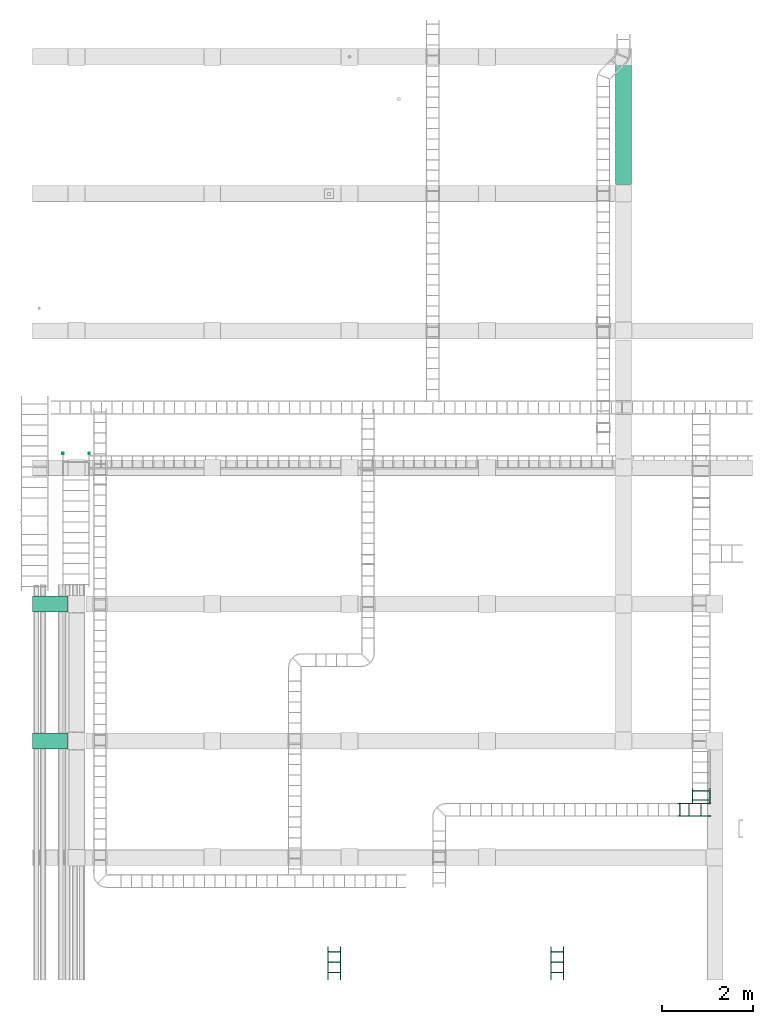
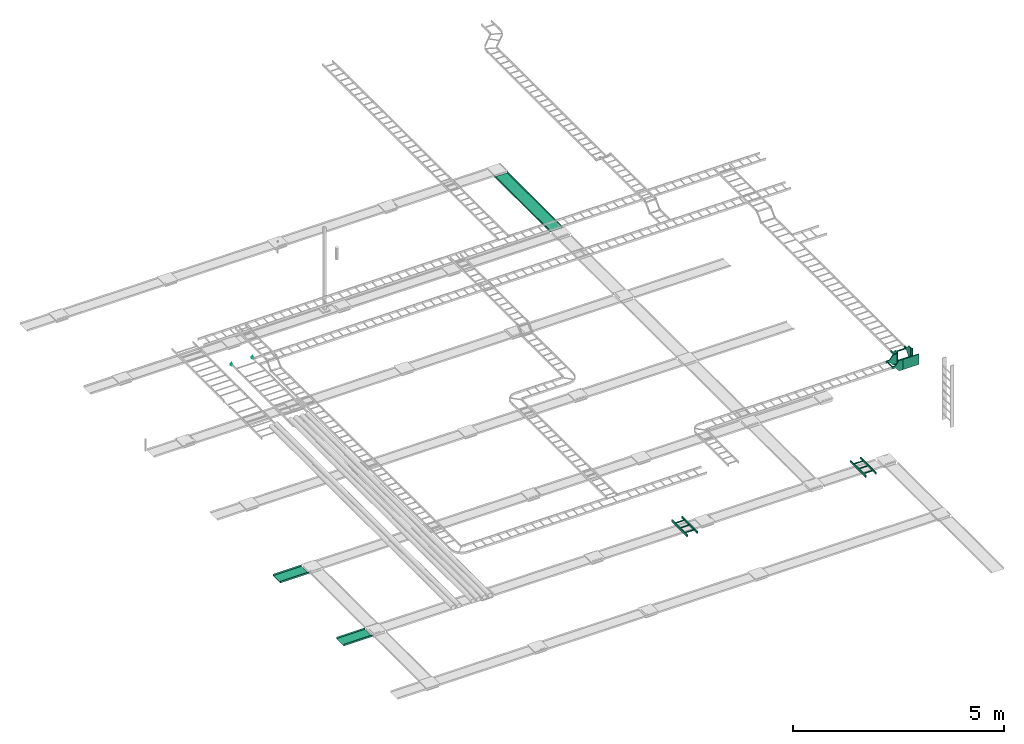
# One storey, part 14 of 16: 6 flow segments, 3 flow fittings.
"""IFC2X3 building model written with IfcOpenShell, lengths in millimetres."""

from ifc_helpers import new_model, entity, si_unit, converted_unit, derived_unit, direction, frame, origin_with_axes, place, context, subcontext, project, spatial, open_shell, faceted_brep, surface_model, source, transform, mapped, type_object, element, save


model = new_model("IFC2X3")

# Units and contexts
model_context = context("Model", 3, precision=0.01, world=frame((0.0, 4.29681676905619e-09, 0.0)), true_north=direction((4.01073788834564e-13, 1.0)))
plan_context = context("Plan", 3, precision=0.01, world=frame((0.0, 4.29681676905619e-09, 0.0)), true_north=direction((4.01073788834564e-13, 1.0)))
body_context = subcontext(model_context, "Body", "Model", "MODEL_VIEW")
ifc_project = project(units=[converted_unit("PLANEANGLEUNIT", "DEGREE", entity("IfcPositiveLengthMeasure", 0.0174532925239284), si_unit("PLANEANGLEUNIT", "RADIAN"), dimensions=[0, 0, 0, 0, 0, 0, 0]), si_unit("AREAUNIT", "SQUARE_METRE"), si_unit("LENGTHUNIT", "METRE", prefix="MILLI"), si_unit("MASSUNIT", "GRAM", prefix="KILO"), si_unit("POWERUNIT", "WATT"), si_unit("PRESSUREUNIT", "PASCAL"), si_unit("FORCEUNIT", "NEWTON", prefix="KILO"), si_unit("ELECTRICVOLTAGEUNIT", "VOLT"), si_unit("ELECTRICCURRENTUNIT", "AMPERE"), si_unit("THERMODYNAMICTEMPERATUREUNIT", "DEGREE_CELSIUS"), si_unit("TIMEUNIT", "SECOND"), si_unit("VOLUMEUNIT", "CUBIC_METRE"), derived_unit("LINEARVELOCITYUNIT", [(si_unit("LENGTHUNIT", "METRE"), 1), (si_unit("TIMEUNIT", "SECOND"), -1)]), derived_unit("VOLUMETRICFLOWRATEUNIT", [(si_unit("VOLUMEUNIT", "CUBIC_METRE"), 1), (si_unit("TIMEUNIT", "SECOND"), -1)]), derived_unit("THERMALTRANSMITTANCEUNIT", [(si_unit("POWERUNIT", "WATT"), 1), (si_unit("THERMODYNAMICTEMPERATUREUNIT", "KELVIN"), -1), (si_unit("AREAUNIT", "SQUARE_METRE"), -1)]), derived_unit("SOUNDPRESSUREUNIT", [(si_unit("PRESSUREUNIT", "PASCAL"), 1)])], contexts=[model_context, plan_context])

# Site, building, storey
site_placement = place(None, frame((0.0, -4.29681676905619e-09, 0.0), z_axis=(0.0, 0.0, 1.0), x_axis=(1.0, 0.0, 0.0)))
site = spatial("IfcSite", under=ifc_project, at=site_placement, Name="ENGM", CompositionType="ELEMENT")
building_placement = place(site_placement, frame((0.0, 4.29681676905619e-09, 0.0), z_axis=(0.0, 0.0, 1.0), x_axis=(1.0, 0.0, 0.0)))
building = spatial("IfcBuilding", under=site, at=building_placement, Name="TS", CompositionType="ELEMENT")
storey_placement = place(building_placement, frame((0.0, 0.0, 210900.0), z_axis=(0.0, 0.0, 1.0), x_axis=(1.0, 0.0, 0.0)))
storey = spatial("IfcBuildingStorey", under=building, at=storey_placement, Name="Nivå F", CompositionType="ELEMENT", Elevation=210900.0)

# Flow fittings
cable_carrier_fitting_type_1 = type_object("IfcCableCarrierFittingType", Name="10mm Radius", PredefinedType="TEE")
shared_shape_1 = source(origin_with_axes(), body_context, "Body", "SurfaceModel", [
    surface_model("IfcShellBasedSurfaceModel", [(12.7, -124.6, -124.6), (12.7, 124.6, -124.6), (-12.7, 124.6, -124.6), (-12.7, -124.6, -124.6), (-12.7, -124.6, -150.0), (-12.7, 124.6, -150.0), (12.7, 124.6, -150.0), (12.7, -124.6, -150.0), (-210.0, -124.6, 150.0), (-220.0, -124.6, 150.0), (-210.0, -150.0, 150.0), (-220.0, -150.0, 150.0), (-207.41181, -150.34074, 150.0), (-205.0, -151.33974, 150.0), (-192.3, -129.3427, 150.0), (-200.83781, -125.80623, 150.0), (-179.34271, -142.3, 150.0), (-184.96842, -134.96842, 150.0), (-201.33975, -155.0, 150.0), (-202.92893, -152.92893, 150.0), (-200.34073, -157.41181, 150.0), (-175.80622, -150.8378, 150.0), (-174.60001, -160.0, 150.0), (-200.0, -160.0, 150.0), (-200.0, -170.0, 150.0), (-174.60001, -170.0, 150.0), (205.0, -151.33974, 150.0), (207.41181, -150.34074, 150.0), (200.83781, -125.80623, 150.0), (192.3, -129.3427, 150.0), (184.96842, -134.96842, 150.0), (202.92893, -152.92893, 150.0), (220.0, -124.6, 150.0), (210.0, -124.6, 150.0), (210.0, -150.0, 150.0), (220.0, -150.0, 150.0), (179.34271, -142.3, 150.0), (201.33975, -155.0, 150.0), (200.34073, -157.41181, 150.0), (175.80622, -150.8378, 150.0), (174.60001, -160.0, 150.0), (200.0, -160.0, 150.0), (174.60001, -170.0, 150.0), (200.0, -170.0, 150.0), (220.0, 150.0, 150.0), (-220.0, 150.0, 150.0), (-220.0, 124.6, 150.0), (220.0, 124.6, 150.0), (-200.0, -170.0, -150.0), (-200.0, -160.0, -150.0), (-174.60001, -170.0, -150.0), (-174.60001, -160.0, -150.0), (-174.96527, -154.92777, -150.0), (-200.34073, -157.41181, -150.0), (-176.0418, -150.0, -150.0), (-201.33975, -155.0, -150.0), (200.0, -170.0, -150.0), (174.60001, -170.0, -150.0), (200.0, -160.0, -150.0), (174.60001, -160.0, -150.0), (174.96527, -154.92777, -150.0), (200.34073, -157.41181, -150.0), (176.0418, -150.0, -150.0), (201.33975, -155.0, -150.0), (-205.0, -151.33974, -150.0), (-207.41181, -150.34074, -150.0), (-220.0, -124.6, -150.0), (-202.92893, -152.92893, -150.0), (-220.0, -150.0, -150.0), (-210.0, -150.0, -150.0), (220.0, -124.6, -150.0), (205.0, -151.33974, -150.0), (202.92893, -152.92893, -150.0), (207.41181, -150.34074, -150.0), (210.0, -150.0, -150.0), (220.0, -150.0, -150.0), (220.0, 124.6, -150.0), (-220.0, 124.6, -150.0), (-220.0, 150.0, -150.0), (220.0, 150.0, -150.0), (-176.0418, -150.0, -124.6), (-179.69674, -141.70049, -124.6), (-185.34038, -134.60191, -124.6), (-192.60234, -129.17012, -124.6), (-201.00604, -125.76159, -124.6), (-210.0, -124.6, -124.6), (210.0, -124.6, -124.6), (-210.0, -150.0, -124.6), (210.0, -150.0, -124.6), (201.00604, -125.76159, -124.6), (192.60234, -129.17012, -124.6), (185.34038, -134.60191, -124.6), (179.69674, -141.70049, -124.6), (176.0418, -150.0, -124.6)], [open_shell([[[0, 1, 2]], [[2, 3, 0]], [[4, 5, 6]], [[6, 7, 4]], [[2, 1, 6]], [[6, 5, 2]], [[3, 2, 5]], [[5, 4, 3]], [[0, 3, 4]], [[4, 7, 0]], [[1, 0, 7]], [[7, 6, 1]], [[8, 9, 10]], [[11, 10, 9]], [[8, 10, 12]], [[13, 14, 15]], [[16, 17, 18]], [[14, 19, 17]], [[15, 12, 13]], [[15, 8, 12]], [[18, 17, 19]], [[18, 20, 21]], [[18, 21, 16]], [[21, 20, 22]], [[23, 24, 25]], [[23, 25, 22]], [[20, 23, 22]], [[19, 14, 13]], [[26, 27, 28]], [[26, 28, 29]], [[29, 30, 31]], [[32, 33, 34]], [[27, 34, 33]], [[34, 35, 32]], [[33, 28, 27]], [[30, 36, 37]], [[38, 39, 40]], [[41, 42, 43]], [[42, 41, 40]], [[38, 40, 41]], [[26, 29, 31]], [[38, 37, 39]], [[30, 37, 31]], [[36, 39, 37]], [[44, 45, 46]], [[46, 47, 44]], [[48, 49, 50]], [[50, 49, 51]], [[52, 53, 54]], [[51, 49, 52]], [[53, 55, 54]], [[52, 49, 53]], [[56, 57, 58]], [[58, 57, 59]], [[60, 61, 58]], [[62, 63, 61]], [[61, 60, 62]], [[60, 58, 59]], [[64, 65, 66]], [[67, 64, 54]], [[68, 66, 69]], [[66, 65, 69]], [[64, 66, 54]], [[66, 70, 54]], [[71, 72, 62]], [[73, 71, 70]], [[73, 70, 74]], [[70, 71, 62]], [[70, 75, 74]], [[62, 54, 70]], [[63, 62, 72]], [[55, 67, 54]], [[76, 77, 78]], [[78, 79, 76]], [[24, 23, 49]], [[49, 48, 24]], [[25, 24, 48]], [[48, 50, 25]], [[22, 25, 50]], [[50, 51, 22]], [[22, 51, 52]], [[52, 54, 80]], [[22, 52, 21]], [[80, 16, 21]], [[16, 80, 81]], [[52, 80, 21]], [[81, 17, 16]], [[14, 82, 83]], [[15, 83, 84]], [[8, 84, 85]], [[17, 82, 14]], [[14, 83, 15]], [[84, 8, 15]], [[82, 17, 81]], [[33, 32, 86]], [[9, 8, 85]], [[86, 70, 85]], [[70, 86, 32]], [[85, 66, 9]], [[66, 85, 70]], [[11, 9, 66]], [[66, 68, 11]], [[10, 11, 87]], [[87, 68, 69]], [[68, 87, 11]], [[12, 10, 87]], [[13, 12, 87]], [[65, 87, 69]], [[87, 65, 64]], [[64, 13, 87]], [[64, 67, 13]], [[18, 19, 55]], [[20, 18, 53]], [[23, 20, 49]], [[55, 19, 67]], [[53, 18, 55]], [[53, 49, 20]], [[13, 67, 19]], [[37, 38, 61]], [[31, 37, 63]], [[58, 38, 41]], [[61, 38, 58]], [[61, 63, 37]], [[63, 72, 31]], [[88, 27, 26]], [[27, 88, 34]], [[71, 88, 26]], [[71, 26, 72]], [[73, 88, 71]], [[73, 74, 88]], [[31, 72, 26]], [[35, 34, 88]], [[88, 74, 75]], [[88, 75, 35]], [[32, 35, 75]], [[75, 70, 32]], [[33, 86, 89]], [[28, 89, 90]], [[29, 90, 91]], [[33, 89, 28]], [[28, 90, 29]], [[91, 30, 29]], [[91, 92, 30]], [[93, 62, 60]], [[93, 60, 39]], [[40, 60, 59]], [[92, 36, 30]], [[92, 93, 36]], [[36, 93, 39]], [[60, 40, 39]], [[42, 40, 57]], [[59, 57, 40]], [[43, 42, 57]], [[57, 56, 43]], [[41, 43, 58]], [[56, 58, 43]], [[45, 44, 79]], [[79, 78, 45]], [[46, 45, 77]], [[78, 77, 45]], [[47, 46, 77]], [[77, 76, 47]], [[44, 47, 79]], [[76, 79, 47]], [[89, 86, 84]], [[90, 89, 84]], [[92, 91, 82]], [[93, 92, 81]], [[90, 83, 91]], [[84, 83, 90]], [[85, 84, 86]], [[81, 80, 93]], [[82, 81, 92]], [[83, 82, 91]], [[93, 80, 54]], [[54, 62, 93]]])]),
])
flow_fitting_1_placement = place(storey_placement, frame((535192.55901, 444501.94453, 3925.0), z_axis=(0.0, 0.0, 1.0), x_axis=(-1.0, 0.0, 0.0)))
element("IfcFlowFitting", 1, at=flow_fitting_1_placement, inside=storey, type_object=cable_carrier_fitting_type_1, Name="10mm Radius", context=body_context, shape_type="MappedRepresentation", body=[
    mapped(shared_shape_1, transform((0.0, 0.0, 0.0), scale=1.0)),
])
cable_carrier_fitting_type_2 = type_object("IfcCableCarrierFittingType", Name="Standard", PredefinedType="REDUCER")
shared_shape_2 = source(origin_with_axes(), body_context, "Body", "SurfaceModel", [
    surface_model("IfcShellBasedSurfaceModel", [(300.0, -150.0, -30.0), (300.0, -124.6, -30.0), (300.0, -124.6, 30.0), (300.0, -150.0, 30.0), (300.0, 124.6, -30.0), (300.0, 150.0, -30.0), (300.0, 150.0, 30.0), (300.0, 124.6, 30.0), (237.3, 124.6, -4.6), (262.70001, 124.6, -30.0), (237.3, 124.6, -30.0), (262.70001, 124.6, -4.6), (237.3, -124.6, -30.0), (262.70001, -124.6, -30.0), (237.3, -124.6, -4.6), (262.70001, -124.6, -4.6), (200.0, -124.6, 30.0), (200.0, -124.6, -30.0), (200.0, -150.0, -30.0), (200.0, -150.0, 30.0), (200.0, 150.0, 30.0), (200.0, 150.0, -30.0), (200.0, 124.6, -30.0), (200.0, 124.6, 30.0), (0.0, -124.6, 150.0), (0.0, -124.6, -150.0), (0.0, -150.0, -150.0), (0.0, -150.0, 150.0), (0.0, 150.0, 150.0), (0.0, 150.0, -150.0), (0.0, 124.6, -150.0), (0.0, 124.6, 150.0), (100.0, -124.6, -150.0), (100.0, -124.6, 150.0), (100.0, -150.0, -150.0), (100.0, -150.0, 150.0), (100.0, 150.0, -150.0), (100.0, 150.0, 150.0), (100.0, 124.6, -150.0), (100.0, 124.6, 150.0), (37.3, 124.6, -124.6), (62.7, 124.6, -150.0), (37.3, 124.6, -150.0), (62.7, 124.6, -124.6), (37.3, -124.6, -150.0), (62.7, -124.6, -150.0), (37.3, -124.6, -124.6), (62.7, -124.6, -124.6)], [open_shell([[[0, 1, 2]], [[2, 3, 0]], [[4, 5, 6]], [[6, 7, 4]], [[8, 9, 10]], [[9, 8, 11]], [[12, 13, 14]], [[15, 14, 13]], [[9, 11, 15]], [[15, 13, 9]], [[8, 10, 12]], [[12, 14, 8]], [[16, 2, 17]], [[1, 17, 2]], [[18, 0, 19]], [[3, 19, 0]], [[20, 6, 21]], [[5, 21, 6]], [[22, 4, 23]], [[7, 23, 4]], [[18, 17, 1]], [[1, 0, 18]], [[16, 19, 2]], [[3, 2, 19]], [[22, 21, 5]], [[5, 4, 22]], [[20, 23, 6]], [[7, 6, 23]], [[10, 9, 12]], [[13, 12, 9]], [[11, 8, 15]], [[14, 15, 8]], [[24, 25, 26]], [[26, 27, 24]], [[28, 29, 30]], [[30, 31, 28]], [[25, 24, 16]], [[17, 32, 25]], [[16, 24, 33]], [[16, 17, 25]], [[26, 25, 32]], [[32, 34, 26]], [[27, 26, 18]], [[19, 35, 27]], [[18, 26, 34]], [[18, 19, 27]], [[24, 27, 33]], [[35, 33, 27]], [[29, 28, 20]], [[21, 36, 29]], [[20, 28, 37]], [[20, 21, 29]], [[30, 29, 36]], [[36, 38, 30]], [[31, 30, 22]], [[23, 39, 31]], [[22, 30, 38]], [[22, 23, 31]], [[28, 31, 37]], [[39, 37, 31]], [[20, 37, 23]], [[39, 23, 37]], [[22, 38, 36]], [[36, 21, 22]], [[16, 33, 19]], [[35, 19, 33]], [[18, 34, 32]], [[32, 17, 18]], [[40, 41, 42]], [[41, 40, 43]], [[44, 45, 46]], [[47, 46, 45]], [[41, 43, 47]], [[47, 45, 41]], [[42, 41, 44]], [[45, 44, 41]], [[40, 42, 44]], [[44, 46, 40]], [[43, 40, 47]], [[46, 47, 40]]])]),
])
flow_fitting_2_placement = place(storey_placement, frame((534972.55901, 444501.94453, 3925.0), z_axis=(0.0, 0.0, 1.0), x_axis=(-1.0, 0.0, 0.0)))
element("IfcFlowFitting", 2, at=flow_fitting_2_placement, inside=storey, type_object=cable_carrier_fitting_type_2, Name="Standard", context=body_context, shape_type="MappedRepresentation", body=[
    mapped(shared_shape_2, transform((0.0, 0.0, 0.0), scale=1.0)),
])
shared_shape_3 = source(origin_with_axes(), body_context, "Body", "SurfaceModel", [
    surface_model("IfcShellBasedSurfaceModel", [(0.0, -200.0, 150.0), (0.0, -174.60001, -150.0), (0.0, -200.0, -150.0), (0.0, -174.60001, 150.0), (0.0, 174.60001, 150.0), (0.0, 200.0, -150.0), (0.0, 174.60001, -150.0), (0.0, 200.0, 150.0), (200.0, -174.60001, 30.0), (200.0, -174.60001, -30.0), (100.0, -174.60001, -150.0), (100.0, -174.60001, 150.0), (300.0, -174.60001, 30.0), (300.0, -174.60001, -30.0), (100.0, -200.0, -150.0), (200.0, -200.0, -30.0), (200.0, -200.0, 30.0), (100.0, -200.0, 150.0), (300.0, -200.0, -30.0), (300.0, -200.0, 30.0), (200.0, 200.0, 30.0), (200.0, 200.0, -30.0), (100.0, 200.0, -150.0), (100.0, 200.0, 150.0), (300.0, 200.0, 30.0), (300.0, 200.0, -30.0), (100.0, 174.60001, -150.0), (200.0, 174.60001, -30.0), (200.0, 174.60001, 30.0), (100.0, 174.60001, 150.0), (300.0, 174.60001, -30.0), (300.0, 174.60001, 30.0), (237.3, 174.60001, -4.6), (262.70001, 174.60001, -30.0), (237.3, 174.60001, -30.0), (262.70001, 174.60001, -4.6), (237.3, -174.60001, -30.0), (262.70001, -174.60001, -30.0), (237.3, -174.60001, -4.6), (262.70001, -174.60001, -4.6), (37.3, 174.60001, -124.6), (62.7, 174.60001, -150.0), (37.3, 174.60001, -150.0), (62.7, 174.60001, -124.6), (37.3, -174.60001, -150.0), (62.7, -174.60001, -150.0), (37.3, -174.60001, -124.6), (62.7, -174.60001, -124.6)], [open_shell([[[0, 1, 2]], [[1, 0, 3]], [[4, 5, 6]], [[5, 4, 7]], [[1, 3, 8]], [[9, 10, 1]], [[8, 3, 11]], [[8, 12, 9]], [[13, 9, 12]], [[8, 9, 1]], [[2, 1, 10]], [[10, 14, 2]], [[0, 2, 15]], [[16, 17, 0]], [[15, 2, 14]], [[15, 18, 16]], [[19, 16, 18]], [[15, 16, 0]], [[3, 0, 11]], [[17, 11, 0]], [[5, 7, 20]], [[21, 22, 5]], [[20, 7, 23]], [[20, 24, 21]], [[25, 21, 24]], [[20, 21, 5]], [[6, 5, 22]], [[22, 26, 6]], [[4, 6, 27]], [[28, 29, 4]], [[27, 6, 26]], [[27, 30, 28]], [[31, 28, 30]], [[27, 28, 4]], [[7, 4, 23]], [[29, 23, 4]], [[18, 13, 19]], [[12, 19, 13]], [[30, 25, 31]], [[24, 31, 25]], [[20, 23, 28]], [[29, 28, 23]], [[27, 26, 22]], [[22, 21, 27]], [[15, 9, 13]], [[13, 18, 15]], [[8, 16, 12]], [[19, 12, 16]], [[27, 21, 25]], [[25, 30, 27]], [[20, 28, 24]], [[31, 24, 28]], [[8, 11, 16]], [[17, 16, 11]], [[15, 14, 10]], [[10, 9, 15]], [[32, 33, 34]], [[33, 32, 35]], [[36, 37, 38]], [[39, 38, 37]], [[33, 35, 37]], [[39, 37, 35]], [[34, 33, 37]], [[37, 36, 34]], [[32, 34, 38]], [[36, 38, 34]], [[35, 32, 38]], [[38, 39, 35]], [[40, 41, 42]], [[41, 40, 43]], [[44, 45, 46]], [[47, 46, 45]], [[41, 43, 47]], [[47, 45, 41]], [[42, 41, 44]], [[45, 44, 41]], [[40, 42, 44]], [[44, 46, 40]], [[43, 40, 47]], [[46, 47, 40]]])]),
])
flow_fitting_3_placement = place(storey_placement, frame((535192.55901, 444671.94453, 3925.0), z_axis=(0.0, 0.0, 1.0), x_axis=(0.0, 1.0, 0.0)))
element("IfcFlowFitting", 3, at=flow_fitting_3_placement, inside=storey, type_object=cable_carrier_fitting_type_2, Name="Standard", context=body_context, shape_type="MappedRepresentation", body=[
    mapped(shared_shape_3, transform((0.0, 0.0, 0.0), scale=1.0)),
])

# Flow segments
cable_carrier_segment_type_1 = type_object("IfcCableCarrierSegmentType", Name="Kabelbro", PredefinedType="CABLELADDERSEGMENT")
shared_shape_4 = source(origin_with_axes(), body_context, "Body", "SurfaceModel", [
    surface_model("IfcShellBasedSurfaceModel", [(0.0, -300.0, -30.0), (0.0, -300.0, 30.0), (0.0, -274.60001, 30.0), (0.0, -274.60001, -30.0), (0.0, 274.60001, -30.0), (0.0, 274.60001, 30.0), (0.0, 300.0, 30.0), (0.0, 300.0, -30.0), (36.17086, -274.60001, 30.0), (36.17086, -300.0, 30.0), (36.17086, -300.0, -30.0), (36.17086, -274.60001, -30.0), (36.17086, 300.0, 30.0), (36.17086, 274.60001, 30.0), (36.17086, 274.60001, -30.0), (36.17086, 300.0, -30.0)], [open_shell([[[0, 1, 2]], [[2, 3, 0]], [[4, 5, 6]], [[6, 7, 4]], [[8, 9, 10]], [[10, 11, 8]], [[12, 13, 14]], [[14, 15, 12]], [[1, 0, 9]], [[10, 9, 0]], [[2, 1, 9]], [[9, 8, 2]], [[3, 2, 11]], [[8, 11, 2]], [[0, 3, 11]], [[11, 10, 0]], [[7, 6, 15]], [[12, 15, 6]], [[4, 7, 15]], [[15, 14, 4]], [[5, 4, 13]], [[14, 13, 4]], [[6, 5, 13]], [[13, 12, 6]]])]),
])
flow_segment_1_placement = place(storey_placement, frame((521496.73076, 452330.59102, 3925.0), z_axis=(0.0, 0.0, 1.0), x_axis=(0.0, -1.0, 0.0)))
element("IfcFlowSegment", 4, at=flow_segment_1_placement, inside=storey, type_object=cable_carrier_segment_type_1, Name="Kabelbro", context=body_context, shape_type="MappedRepresentation", body=[
    mapped(shared_shape_4, transform((0.0, 0.0, 0.0), scale=1.0)),
])
cable_carrier_segment_type_2 = type_object("IfcCableCarrierSegmentType", Name="Kabelbane", PredefinedType="CABLETRAYSEGMENT")
shared_shape_5 = source(origin_with_axes(), body_context, "Body", "SurfaceModel", [
    surface_model("IfcShellBasedSurfaceModel", [(0.0, -175.0, 25.0), (0.0, -172.46, -22.46), (0.0, -175.0, -25.0), (0.0, 175.0, -25.0), (0.0, -172.46, 25.0), (0.0, 175.0, 25.0), (0.0, 172.46, -22.46), (0.0, 172.46, 25.0), (2622.3815, -172.46, 25.0), (2622.3815, -175.0, 25.0), (2622.3815, -172.46, -22.46), (2622.3815, 175.0, 25.0), (2622.3815, 172.46, 25.0), (2622.3815, 172.46, -22.46), (2622.3815, -175.0, -25.0), (2622.3815, 175.0, -25.0)], [open_shell([[[0, 1, 2]], [[3, 2, 1]], [[1, 0, 4]], [[5, 3, 6]], [[1, 6, 3]], [[6, 7, 5]], [[8, 9, 10]], [[11, 12, 13]], [[10, 14, 15]], [[14, 10, 9]], [[13, 15, 11]], [[15, 13, 10]], [[0, 2, 14]], [[14, 9, 0]], [[4, 0, 9]], [[9, 8, 4]], [[1, 4, 10]], [[8, 10, 4]], [[6, 1, 13]], [[10, 13, 1]], [[7, 6, 12]], [[13, 12, 6]], [[5, 7, 12]], [[12, 11, 5]], [[3, 5, 11]], [[11, 15, 3]], [[2, 3, 14]], [[15, 14, 3]]])]),
])
flow_segment_2_placement = place(storey_placement, frame((533489.50798, 460823.3708, -35.0), z_axis=(0.0, 0.0, 1.0), x_axis=(0.0, -1.0, 0.0)))
element("IfcFlowSegment", 5, at=flow_segment_2_placement, inside=storey, type_object=cable_carrier_segment_type_2, Name="Kabelbane", context=body_context, shape_type="MappedRepresentation", body=[
    mapped(shared_shape_5, transform((0.0, 0.0, 0.0), scale=1.0)),
])
flow_segment_3_placement = place(storey_placement, frame((527154.475, 435906.99664, 3930.0), z_axis=(0.0, 0.0, 1.0), x_axis=(0.0, 1.0, 0.0)))
element("IfcFlowSegment", 6, at=flow_segment_3_placement, inside=storey, type_object=cable_carrier_segment_type_1, Name="Kabelbro", context=body_context, shape_type="Brep", body=[
    faceted_brep([(5041.89981, 124.6, -30.0), (5041.89981, -124.6, -30.0), (5041.89981, -124.6, -4.6), (5041.89981, 124.6, -4.6), (5016.50019, 124.6, -4.6), (5016.50019, -124.6, -4.6), (5016.50019, -124.6, -30.0), (5016.50019, 124.6, -30.0), (5270.49981, 124.6, -30.0), (5270.49981, -124.6, -30.0), (5270.49981, -124.6, -4.6), (5270.49981, 124.6, -4.6), (5245.10019, 124.6, -4.6), (5245.10019, -124.6, -4.6), (5245.10019, -124.6, -30.0), (5245.10019, 124.6, -30.0), (5499.09981, -124.6, -4.6), (5499.09981, -124.6, -30.0), (5473.70019, -124.6, -30.0), (5473.70019, -124.6, -4.6), (5473.70019, 124.6, -30.0), (5499.09981, 124.6, -30.0), (5499.09981, 124.6, -4.6), (5473.70019, 124.6, -4.6), (5600.00004, -124.6, 30.0), (5600.00004, -124.6, -30.0), (5600.00004, -150.0, -30.0), (5600.00004, -150.0, 30.0), (5600.00004, 150.0, 30.0), (5600.00004, 150.0, -30.0), (5600.00004, 124.6, -30.0), (5600.00004, 124.6, 30.0), (4868.00335999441, -150.0, -30.0), (4868.00335999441, -150.0, -22.1571784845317), (4868.00335999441, -150.0, 30.0), (4868.00335999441, -146.679872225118, 30.0), (4868.00335999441, -124.6, 30.0), (4868.00335999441, -124.6, 22.1571784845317), (4868.00335999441, -124.6, -30.0), (4868.00335999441, -127.920127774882, -30.0), (4868.00335999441, 150.0, 30.0), (4868.00335999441, 150.0, 22.1571784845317), (4868.00335999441, 150.0, -30.0), (4868.00335999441, 146.679872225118, -30.0), (4868.00335999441, 124.6, -30.0), (4868.00335999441, 124.6, -22.1571784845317), (4868.00335999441, 124.6, 30.0), (4868.00335999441, 127.920127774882, 30.0)], [[[0, 1, 2]], [[2, 3, 0]], [[4, 2, 5]], [[2, 4, 3]], [[4, 5, 6]], [[6, 7, 4]], [[0, 6, 1]], [[6, 0, 7]], [[8, 9, 10]], [[10, 11, 8]], [[12, 10, 13]], [[10, 12, 11]], [[12, 13, 14]], [[14, 15, 12]], [[8, 14, 9]], [[14, 8, 15]], [[2, 1, 6]], [[6, 5, 2]], [[7, 0, 3]], [[3, 4, 7]], [[10, 9, 14]], [[14, 13, 10]], [[15, 8, 11]], [[11, 12, 15]], [[16, 17, 18]], [[18, 19, 16]], [[20, 21, 22]], [[22, 23, 20]], [[21, 17, 16]], [[16, 22, 21]], [[23, 16, 19]], [[16, 23, 22]], [[23, 19, 18]], [[18, 20, 23]], [[21, 18, 17]], [[18, 21, 20]], [[24, 25, 26]], [[26, 27, 24]], [[28, 29, 30]], [[30, 31, 28]], [[32, 33, 26]], [[33, 34, 27, 26]], [[34, 35, 27]], [[35, 36, 24, 27]], [[36, 37, 24]], [[37, 38, 25, 24]], [[38, 39, 25]], [[39, 32, 26, 25]], [[40, 41, 28]], [[41, 42, 29, 28]], [[42, 43, 29]], [[43, 44, 30, 29]], [[44, 45, 30]], [[45, 46, 31, 30]], [[46, 47, 31]], [[47, 40, 28, 31]], [[39, 38, 37, 36, 35, 34, 33, 32]], [[47, 46, 45, 44, 43, 42, 41, 40]]], orient=[[False], [False], [False], [False], [False], [False], [False], [False], [False], [False], [False], [False], [False], [False], [False], [False], [False], [False], [False], [False], [False], [False], [False], [False], [False], [False], [False], [False], [False], [False], [False], [False], [False], [False], [False], [False], [False], [False], [False], [False], [False], [False], [False], [False], [False], [False], [False], [False], [False], [False], [False], [False], [False], [False], [False], [False], [False], [False]]),
])
flow_segment_4_placement = place(storey_placement, frame((532040.27038, 435906.99664, 3930.0), z_axis=(0.0, 0.0, 1.0), x_axis=(0.0, 1.0, 0.0)))
element("IfcFlowSegment", 7, at=flow_segment_4_placement, inside=storey, type_object=cable_carrier_segment_type_1, Name="Kabelbro", context=body_context, shape_type="Brep", body=[
    faceted_brep([(5041.89981, 124.6, -30.0), (5041.89981, -124.6, -30.0), (5041.89981, -124.6, -4.6), (5041.89981, 124.6, -4.6), (5016.50019, 124.6, -4.6), (5016.50019, -124.6, -4.6), (5016.50019, -124.6, -30.0), (5016.50019, 124.6, -30.0), (5270.49981, 124.6, -30.0), (5270.49981, -124.6, -30.0), (5270.49981, -124.6, -4.6), (5270.49981, 124.6, -4.6), (5245.10019, 124.6, -4.6), (5245.10019, -124.6, -4.6), (5245.10019, -124.6, -30.0), (5245.10019, 124.6, -30.0), (5499.09981, -124.6, -4.6), (5499.09981, -124.6, -30.0), (5473.70019, -124.6, -30.0), (5473.70019, -124.6, -4.6), (5473.70019, 124.6, -30.0), (5499.09981, 124.6, -30.0), (5499.09981, 124.6, -4.6), (5473.70019, 124.6, -4.6), (5600.00004, -124.6, 30.0), (5600.00004, -124.6, -30.0), (5600.00004, -150.0, -30.0), (5600.00004, -150.0, 30.0), (5600.00004, 150.0, 30.0), (5600.00004, 150.0, -30.0), (5600.00004, 124.6, -30.0), (5600.00004, 124.6, 30.0), (4868.00335999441, -150.0, -30.0), (4868.00335999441, -150.0, -22.1571784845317), (4868.00335999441, -150.0, 30.0), (4868.00335999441, -146.679872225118, 30.0), (4868.00335999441, -124.6, 30.0), (4868.00335999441, -124.6, 22.1571784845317), (4868.00335999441, -124.6, -30.0), (4868.00335999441, -127.920127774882, -30.0), (4868.00335999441, 150.0, 30.0), (4868.00335999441, 150.0, 22.1571784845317), (4868.00335999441, 150.0, -30.0), (4868.00335999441, 146.679872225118, -30.0), (4868.00335999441, 124.6, -30.0), (4868.00335999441, 124.6, -22.1571784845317), (4868.00335999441, 124.6, 30.0), (4868.00335999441, 127.920127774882, 30.0)], [[[0, 1, 2]], [[2, 3, 0]], [[4, 2, 5]], [[2, 4, 3]], [[4, 5, 6]], [[6, 7, 4]], [[0, 6, 1]], [[6, 0, 7]], [[8, 9, 10]], [[10, 11, 8]], [[12, 10, 13]], [[10, 12, 11]], [[12, 13, 14]], [[14, 15, 12]], [[8, 14, 9]], [[14, 8, 15]], [[2, 1, 6]], [[6, 5, 2]], [[7, 0, 3]], [[3, 4, 7]], [[10, 9, 14]], [[14, 13, 10]], [[15, 8, 11]], [[11, 12, 15]], [[16, 17, 18]], [[18, 19, 16]], [[20, 21, 22]], [[22, 23, 20]], [[21, 17, 16]], [[16, 22, 21]], [[23, 16, 19]], [[16, 23, 22]], [[23, 19, 18]], [[18, 20, 23]], [[21, 18, 17]], [[18, 21, 20]], [[24, 25, 26]], [[26, 27, 24]], [[28, 29, 30]], [[30, 31, 28]], [[32, 33, 26]], [[33, 34, 27, 26]], [[34, 35, 27]], [[35, 36, 24, 27]], [[36, 37, 24]], [[37, 38, 25, 24]], [[38, 39, 25]], [[39, 32, 26, 25]], [[40, 41, 28]], [[41, 42, 29, 28]], [[42, 43, 29]], [[43, 44, 30, 29]], [[44, 45, 30]], [[45, 46, 31, 30]], [[46, 47, 31]], [[47, 40, 28, 31]], [[39, 38, 37, 36, 35, 34, 33, 32]], [[47, 46, 45, 44, 43, 42, 41, 40]]], orient=[[False], [False], [False], [False], [False], [False], [False], [False], [False], [False], [False], [False], [False], [False], [False], [False], [False], [False], [False], [False], [False], [False], [False], [False], [False], [False], [False], [False], [False], [False], [False], [False], [False], [False], [False], [False], [False], [False], [False], [False], [False], [False], [False], [False], [False], [False], [False], [False], [False], [False], [False], [False], [False], [False], [False], [False], [False], [False]]),
])
for number, where, z_axis, x_axis in (
    (8, (519285.29798, 449014.16475, -35.0), (0.0, 0.0, 1.0), (1.0, 0.0, 0.0)),
    (9, (519285.29798, 446009.60271, -35.0), (0.0, 0.0, 1.0), (1.0, 0.0, 0.0)),
):
    element("IfcFlowSegment", number, at=place(storey_placement, frame(where, z_axis=z_axis, x_axis=x_axis)), inside=storey, type_object=cable_carrier_segment_type_2, Name="Kabelbane", context=body_context, shape_type="Brep", body=[
        faceted_brep([(2034.47945, -175.0, 25.0), (2034.47945, -172.46, -22.46), (2034.47945, -175.0, -25.0), (2034.47945, -172.46, 25.0), (2034.47945, 175.0, -25.0), (2034.47945, 172.46, -22.46), (2034.47945, 175.0, 25.0), (2034.47945, 172.46, 25.0), (1259.68952002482, -175.0, 5.95852160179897), (1259.68952002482, -175.0, 25.0), (1259.68952002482, -175.0, -25.0), (1259.68952002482, -174.032692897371, 25.0), (1259.68952002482, -172.46, 25.0), (1259.68952002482, -172.46, 6.92582870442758), (1259.68952002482, -172.46, -22.46), (1259.68952002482, 41.10426541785, -22.46), (1259.68952002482, 172.46, -22.46), (1259.68952002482, 172.46, -4.38582870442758), (1259.68952002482, 172.46, 25.0), (1259.68952002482, 173.427307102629, 25.0), (1259.68952002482, 175.0, 25.0), (1259.68952002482, 175.0, -5.95852160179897), (1259.68952002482, 175.0, -25.0), (1259.68952002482, -41.7096512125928, -25.0)], [[[0, 1, 2]], [[1, 0, 3]], [[4, 2, 1]], [[1, 5, 4]], [[6, 4, 5]], [[5, 7, 6]], [[8, 9, 0]], [[10, 8, 0, 2]], [[9, 11, 0]], [[11, 12, 3, 0]], [[12, 13, 3]], [[13, 14, 1, 3]], [[15, 16, 5]], [[14, 15, 5, 1]], [[16, 17, 5]], [[17, 18, 7, 5]], [[18, 19, 7]], [[19, 20, 6, 7]], [[21, 22, 4]], [[20, 21, 4, 6]], [[23, 10, 2]], [[22, 23, 2, 4]], [[10, 23, 22, 21, 20, 19, 18, 17, 16, 15, 14, 13, 12, 11, 9, 8]]], orient=[[False], [False], [False], [False], [False], [False], [False], [False], [False], [False], [False], [False], [False], [False], [False], [False], [False], [False], [False], [False], [False], [False], [False]]),
    ])

save(model, "model.ifc")
